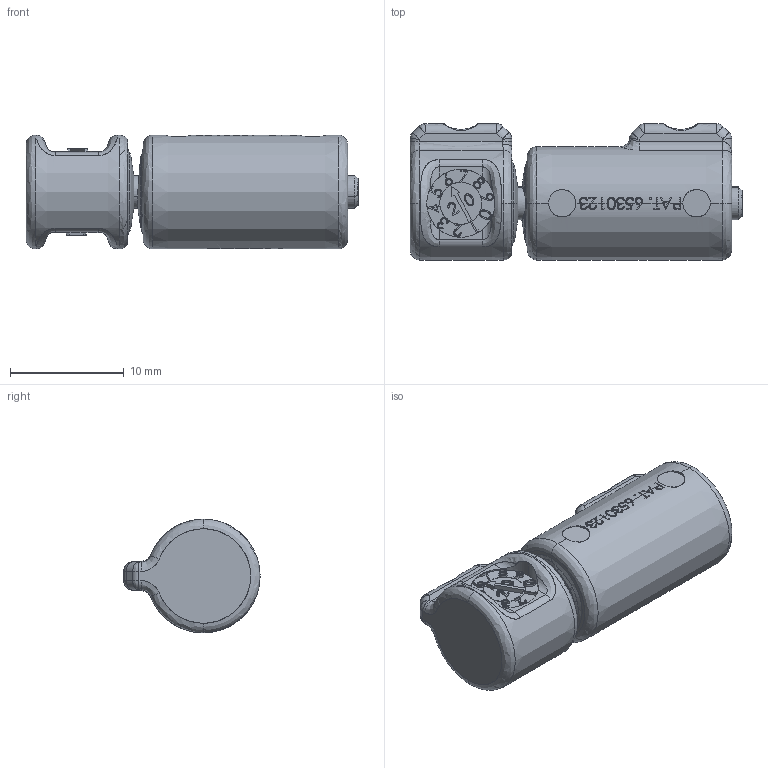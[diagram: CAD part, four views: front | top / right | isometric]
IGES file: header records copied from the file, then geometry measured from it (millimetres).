
Start section: SolidWorks IGES file using analytic representation for surfaces
Global section: file name: G:\RELEASED\FINALS\20-XXX TI-120\Reell_TI-120-X.XX-01.IGS; native system: SolidWorks 2015; preprocessor: SolidWorks 2015; author: hmanderson; date: 150910.085058; units: inch
Bounding box: 29.22 x 12 x 10 mm (x, y, z)
Surface area: 1619.5 mm2 (no closed solid volume)
Topology: 0 solids, 0 shells, 766 faces, 7751 edges, 7733 vertices
Faces by surface type: bspline 637, revolution 129
